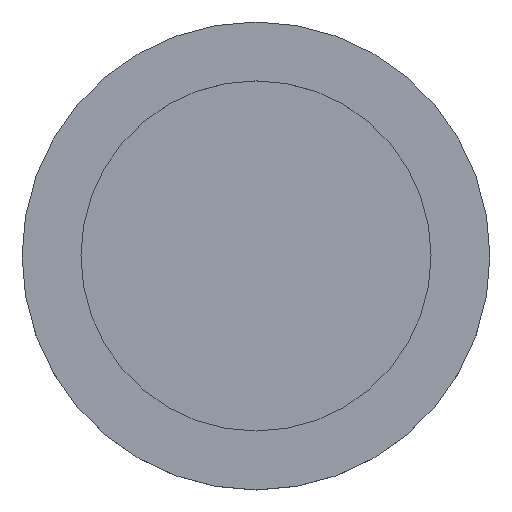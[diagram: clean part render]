
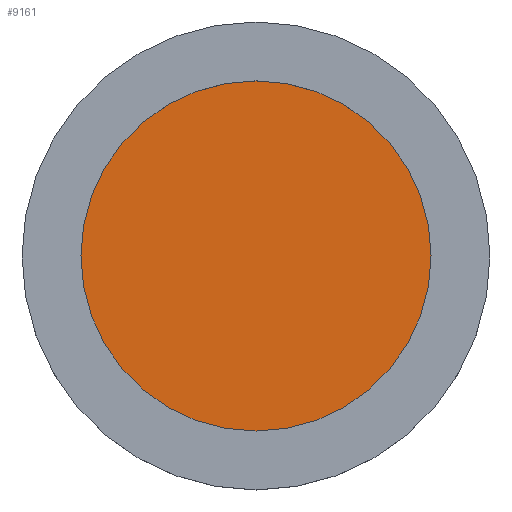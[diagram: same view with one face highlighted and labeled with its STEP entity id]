
A CAD part, top view. The second image highlights one B-rep face of the part: STEP entity #9161.
In plain terms, the highlighted planar face has unit normal (0, 0, 1).
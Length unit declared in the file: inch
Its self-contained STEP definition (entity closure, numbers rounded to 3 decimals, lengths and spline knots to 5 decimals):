
#2001 = AXIS2_PLACEMENT_3D ( 'NONE', #3275, #4119, #9863 ) ;
#2268 = CARTESIAN_POINT ( 'NONE',  ( 0., -3.4375, -0.2725 ) ) ;
#2368 = CARTESIAN_POINT ( 'NONE',  ( 0., 0., -0.2725 ) ) ;
#2577 = CARTESIAN_POINT ( 'NONE',  ( 0., 0., -0.2725 ) ) ;
#2620 = EDGE_CURVE ( 'NONE', #5224, #10193, #8722, .T. ) ;
#3117 = ORIENTED_EDGE ( 'NONE', *, *, #2620, .F. ) ;
#3224 = DIRECTION ( 'NONE',  ( 0., 1., 0. ) ) ;
#3275 = CARTESIAN_POINT ( 'NONE',  ( 0., 0., -0.2725 ) ) ;
#3403 = AXIS2_PLACEMENT_3D ( 'NONE', #2368, #8145, #3224 ) ;
#3406 = DIRECTION ( 'NONE',  ( 0., 1., 0. ) ) ;
#4119 = DIRECTION ( 'NONE',  ( 0., 0., 1. ) ) ;
#4694 = ORIENTED_EDGE ( 'NONE', *, *, #10610, .F. ) ;
#5224 = VERTEX_POINT ( 'NONE', #2268 ) ;
#5950 = CARTESIAN_POINT ( 'NONE',  ( 0., 3.4375, -0.2725 ) ) ;
#6153 = FACE_OUTER_BOUND ( 'NONE', #8366, .T. ) ;
#8145 = DIRECTION ( 'NONE',  ( 0., 0., -1. ) ) ;
#8212 = PLANE ( 'NONE',  #2001 ) ;
#8345 = DIRECTION ( 'NONE',  ( 0., 0., -1. ) ) ;
#8366 = EDGE_LOOP ( 'NONE', ( #4694, #3117 ) ) ;
#8722 = CIRCLE ( 'NONE', #10182, 3.4375 ) ;
#9161 = ADVANCED_FACE ( 'NONE', ( #6153 ), #8212, .T. ) ;
#9787 = CIRCLE ( 'NONE', #3403, 3.4375 ) ;
#9863 = DIRECTION ( 'NONE',  ( 0., -1., 0. ) ) ;
#10182 = AXIS2_PLACEMENT_3D ( 'NONE', #2577, #8345, #3406 ) ;
#10193 = VERTEX_POINT ( 'NONE', #5950 ) ;
#10610 = EDGE_CURVE ( 'NONE', #10193, #5224, #9787, .T. ) ;
